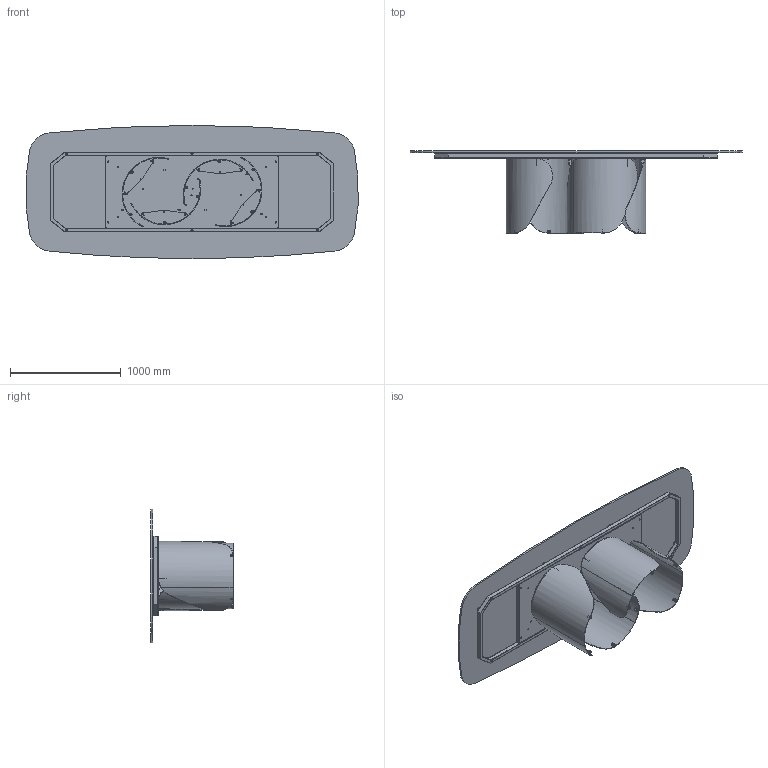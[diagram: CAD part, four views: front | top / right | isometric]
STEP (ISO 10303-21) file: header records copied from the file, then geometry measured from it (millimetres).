
FILE_DESCRIPTION (( 'STEP AP203' ), '1' );
FILE_NAME ('ON44G.STEP', '2024-08-06T13:44:05', ( '' ), ( '' ), 'SwSTEP 2.0', 'SolidWorks 2022', '' );
FILE_SCHEMA (( 'CONFIG_CONTROL_DESIGN' ));
Length unit declared in the file: millimetre
Products named in the file (15): TTAV07_02-01-VASSOIO TELAIO  PLAI ONDA NOA 300; TTAV07_01-04-STRUTTURA TAVOLI PLAI ONDA NOA 300; COLLO BASE ONDA SINGOLA CON FERRAMENTA; OND000000_03-00-LAMIERA CURVATA PRINCIPALE_OND00000X-00-ONDA BASE GREZZA PROTOTIPO; OND000000-03-ONDA BASE GREZZA; 434070-00-PIEDINO TPV GOMMA NERO D. 30x8max18_filo estetico; C4XCRXX-00-Piani Sagomati in Cristallo_3000 x 1200; PIEDINO PER ONDA; rondella M8_8X24; COLLO TELAIO UNIVERSALE TTAV07 CON FERRAMENTA_MTG TOP CRISTALLO VERNICIATO-CERAMICA; ON44G; OND000000_01-00-PIASTRA SUPERIORE BASE ONDA; TTAV07-04-TELAIO X TAVOLI PLAI ONDA NOA 300; M8xXXmm_M8x20mm; OND000000_02-00-CILINDRO DI FISSAGGIO Ø25X17 M8
Assembly tree (56 placements, depth 4):
  ON44G
    COLLO TELAIO UNIVERSALE TTAV07 CON FERRAMENTA_MTG TOP CRISTALLO VERNICIATO-CERAMICA
      TTAV07-04-TELAIO X TAVOLI PLAI ONDA NOA 300
        TTAV07_01-04-STRUTTURA TAVOLI PLAI ONDA NOA 300
        TTAV07_02-01-VASSOIO TELAIO  PLAI ONDA NOA 300
      434070-00-PIEDINO TPV GOMMA NERO D. 30x8max18_filo estetico  x8
    COLLO BASE ONDA SINGOLA CON FERRAMENTA  x4
      OND000000-03-ONDA BASE GREZZA
        OND000000_03-00-LAMIERA CURVATA PRINCIPALE_OND00000X-00-ONDA BASE GREZZA PROTOTIPO
        OND000000_01-00-PIASTRA SUPERIORE BASE ONDA
        OND000000_02-00-CILINDRO DI FISSAGGIO Ø25X17 M8  x2
      PIEDINO PER ONDA
    rondella M8_8X24  x16
    M8xXXmm_M8x20mm  x16
    C4XCRXX-00-Piani Sagomati in Cristallo_3000 x 1200
Bounding box: 2991.72 x 741 x 1200 mm (x, y, z)
Volume: 67968852.8 mm3; surface area: 15432830 mm2
Topology: 83 solids, 83 shells, 1921 faces, 4387 edges, 2674 vertices
Faces by surface type: plane 716, cylinder 677, torus 256, cone 176, bspline 80, sphere 16
Entity records: 22020 total; most frequent: CARTESIAN_POINT 4937, DIRECTION 3117, ORIENTED_EDGE 2896, EDGE_CURVE 1448, AXIS2_PLACEMENT_3D 1170, VERTEX_POINT 916, VECTOR 777, LINE 777
